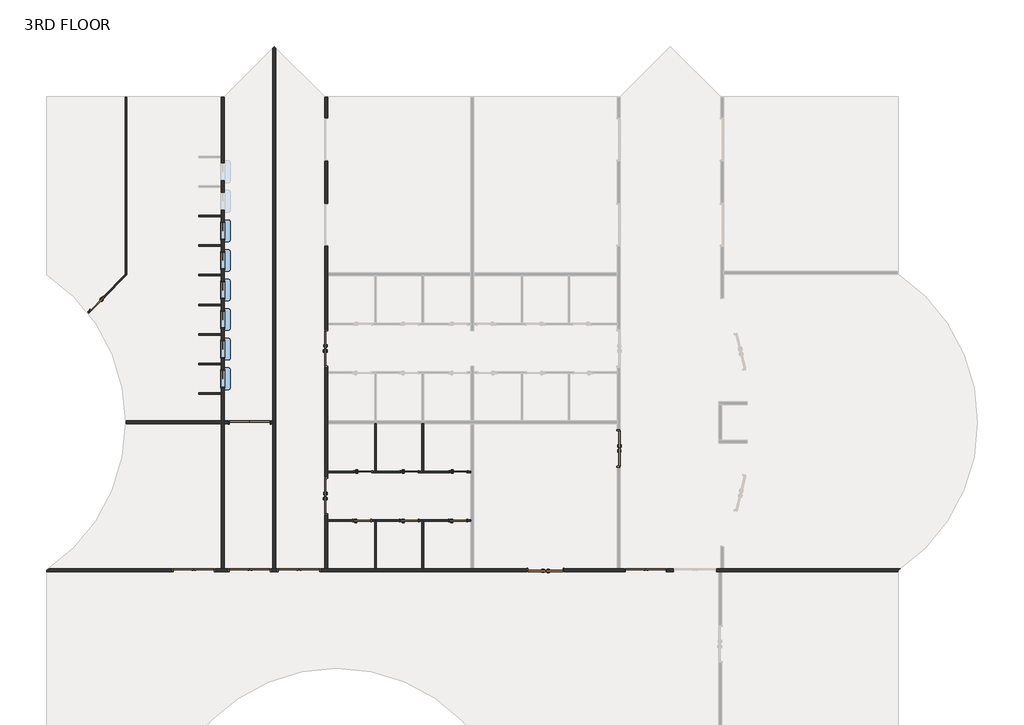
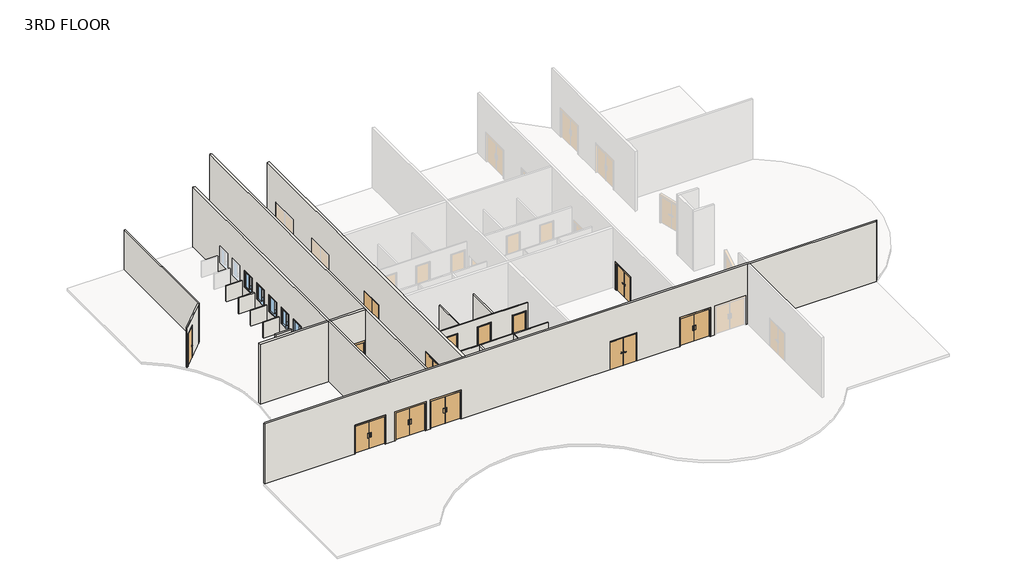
# One storey, part 1 of 2: 20 walls, 16 doors, 6 windows.
"""IFC4 building model written with IfcOpenShell, lengths in millimetres."""

from ifc_helpers import new_model, si_unit, point, frame, frame_2d, origin, place, context, project, spatial, polyline, circle_curve, trimmed, segment, composite_curve, outline, extrude, faceted_brep, transform, mapped, element, save
from ifc_brep_helpers import plane_surface, cylinder_surface, revolved_surface, advanced_brep
from components import door_2f250f70, door_0b13e4d9, door_b3a27a16, door_979b1b8c, door_f8b587be, pass_thru_4x3_19d81059

model = new_model("IFC4")

# Units and contexts
model_context = context("Model", 3, world=origin())
ifc_project = project(units=[si_unit("LENGTHUNIT", "METRE", prefix="MILLI")], contexts=[model_context])

# Site, building, storey
site = spatial("IfcSite", under=ifc_project)
building = spatial("IfcBuilding", under=site)
storey = spatial("IfcBuildingStorey", under=building, Name="3RD FLOOR", Elevation=13716.0)

# Doors
placement = place(None, origin())
door_shape = door_2f250f70(model_context)
element("IfcDoor", 1, ObjectType="Door-Passage-Double-Flush : 72\" x 82\"", at=placement, inside=storey, context=model_context, shape_type="MappedRepresentation", body=[
    mapped(door_shape, transform((14556.3400257, 13109.575, 13716.0), x_axis=(0.0, 1.0, 0.0), y_axis=(-1.0, 0.0, 0.0), z_axis=(0.0, 0.0, 1.0))),
])
element("IfcDoor", 2, ObjectType="Door-Passage-Double-Flush : 72\" x 82\"", at=placement, inside=storey, context=model_context, shape_type="MappedRepresentation", body=[
    mapped(door_shape, transform((14556.3400257, 20729.575, 13716.0), x_axis=(0.0, 1.0, 0.0), y_axis=(-1.0, 0.0, 0.0), z_axis=(0.0, 0.0, 1.0))),
])
element("IfcDoor", 3, ObjectType="Door-Passage-Double-Flush : 72\" x 82\"", at=placement, inside=storey, context=model_context, shape_type="MappedRepresentation", body=[
    mapped(door_shape, transform((25872.8337757, 9305.925, 13716.0), x_axis=(-1.0, 0.0, 0.0), y_axis=(0.0, -1.0, 0.0), z_axis=(0.0, 0.0, 1.0))),
])
element("IfcDoor", 4, ObjectType="Door-Passage-Double-Flush : 72\" x 82\"", at=placement, inside=storey, context=model_context, shape_type="MappedRepresentation", body=[
    mapped(door_shape, transform((29628.0650257, 15571.7875, 13716.0), x_axis=(0.0, -1.0, 0.0), y_axis=(1.0, 0.0, 0.0), z_axis=(0.0, 0.0, 1.0))),
])
door_2_shape = door_0b13e4d9(model_context)
element("IfcDoor", 5, ObjectType="Door-Passage-Double-Flush-Dbl_Acting : 84\" x 84\"", at=placement, inside=storey, context=model_context, shape_type="MappedRepresentation", body=[
    mapped(door_2_shape, transform((13151.4025257, 9293.225, 13716.0), x_axis=(-1.0, 0.0, 0.0), y_axis=(0.0, -1.0, 0.0), z_axis=(0.0, 0.0, 1.0))),
])
door_3_shape = door_b3a27a16(model_context)
element("IfcDoor", 6, ObjectType="Door-Passage-Double-Flush-Dbl_Acting : 84\" x 84\"", at=placement, inside=storey, context=model_context, shape_type="MappedRepresentation", body=[
    mapped(door_3_shape, transform((31033.0025257, 9293.225, 13716.0), x_axis=(1.0, 0.0, 0.0), y_axis=(0.0, 1.0, 0.0), z_axis=(0.0, 0.0, 1.0))),
])
element("IfcDoor", 7, ObjectType="Door-Passage-Double-Flush-Dbl_Acting : 84\" x 84\"", at=placement, inside=storey, context=model_context, shape_type="MappedRepresentation", body=[
    mapped(door_3_shape, transform((10620.375, 9293.225, 13716.0), x_axis=(1.0, 0.0, 0.0), y_axis=(0.0, 1.0, 0.0), z_axis=(0.0, 0.0, 1.0))),
])
element("IfcDoor", 8, ObjectType="Door-Passage-Double-Flush-Dbl_Acting : 84\" x 84\"", at=placement, inside=storey, context=model_context, shape_type="MappedRepresentation", body=[
    mapped(door_3_shape, transform((7730.5724743, 9293.225, 13716.0), x_axis=(1.0, 0.0, 0.0), y_axis=(0.0, 1.0, 0.0), z_axis=(0.0, 0.0, 1.0))),
])
element("IfcDoor", 9, ObjectType="Door-Passage-Double-Flush-Dbl_Acting : 84\" x 84\"", at=placement, inside=storey, context=model_context, shape_type="MappedRepresentation", body=[
    mapped(door_3_shape, transform((10620.375, 16913.225, 13716.0), x_axis=(1.0, 0.0, 0.0), y_axis=(0.0, 1.0, 0.0), z_axis=(0.0, 0.0, 1.0))),
])
door_4_shape = door_979b1b8c(model_context)
element("IfcDoor", 10, ObjectType="Door-Passage-Single-Flush : 36\" x 96\"", at=placement, inside=storey, context=model_context, shape_type="MappedRepresentation", body=[
    mapped(door_4_shape, transform((16456.5775257, 14357.35, 13716.0), x_axis=(1.0, 0.0, 0.0), y_axis=(0.0, 1.0, 0.0), z_axis=(0.0, 0.0, 1.0))),
])
element("IfcDoor", 11, ObjectType="Door-Passage-Single-Flush : 36\" x 96\"", at=placement, inside=storey, context=model_context, shape_type="MappedRepresentation", body=[
    mapped(door_4_shape, transform((18855.2900257, 14357.35, 13716.0), x_axis=(1.0, 0.0, 0.0), y_axis=(0.0, 1.0, 0.0), z_axis=(0.0, 0.0, 1.0))),
])
element("IfcDoor", 12, ObjectType="Door-Passage-Single-Flush : 36\" x 96\"", at=placement, inside=storey, context=model_context, shape_type="MappedRepresentation", body=[
    mapped(door_4_shape, transform((21373.0650257, 14357.35, 13716.0), x_axis=(1.0, 0.0, 0.0), y_axis=(0.0, 1.0, 0.0), z_axis=(0.0, 0.0, 1.0))),
])
element("IfcDoor", 13, ObjectType="Door-Passage-Single-Flush : 36\" x 96\"", at=placement, inside=storey, context=model_context, shape_type="MappedRepresentation", body=[
    mapped(door_4_shape, transform((2731.3607977, 23031.2061406, 13716.0), x_axis=(-0.7071067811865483, -0.7071067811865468, 0.0), y_axis=(0.7071067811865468, -0.7071067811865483, 0.0), z_axis=(0.0, 0.0, 1.0))),
])
door_5_shape = door_f8b587be(model_context)
element("IfcDoor", 14, ObjectType="Door-Passage-Single-Flush : 36\" x 96\"", at=placement, inside=storey, context=model_context, shape_type="MappedRepresentation", body=[
    mapped(door_5_shape, transform((16405.7775257, 11861.8, 13716.0), x_axis=(1.0, 0.0, 0.0), y_axis=(0.0, 1.0, 0.0), z_axis=(0.0, 0.0, 1.0))),
])
element("IfcDoor", 15, ObjectType="Door-Passage-Single-Flush : 36\" x 96\"", at=placement, inside=storey, context=model_context, shape_type="MappedRepresentation", body=[
    mapped(door_5_shape, transform((18836.2400257, 11861.8, 13716.0), x_axis=(1.0, 0.0, 0.0), y_axis=(0.0, 1.0, 0.0), z_axis=(0.0, 0.0, 1.0))),
])
element("IfcDoor", 16, ObjectType="Door-Passage-Single-Flush : 36\" x 96\"", at=placement, inside=storey, context=model_context, shape_type="MappedRepresentation", body=[
    mapped(door_5_shape, transform((21354.0150257, 11861.8, 13716.0), x_axis=(1.0, 0.0, 0.0), y_axis=(0.0, 1.0, 0.0), z_axis=(0.0, 0.0, 1.0))),
])

# Walls
element("IfcWall", 17, ObjectType="SYR_INT_ONE_HOUR", at=placement, inside=storey, context=model_context, shape_type="SweptSolid", body=[
    extrude(outline(polyline([(17066.1775257, 14403.3875), (17066.1775257, 16841.7875), (17145.5525257, 16841.7875), (17145.5525257, 14403.3875), (17066.1775257, 14403.3875)])), frame((0.0, 0.0, 13716.0), z_axis=(0.0, 0.0, 1.0), x_axis=(1.0, 0.0, 0.0)), (0.0, 0.0, 1.0), 3048.0),
])
element("IfcWall", 18, ObjectType="SYR_INT_ONE_HOUR", at=placement, inside=storey, context=model_context, shape_type="SweptSolid", body=[
    extrude(outline(polyline([(19576.0150257, 11815.7625), (19576.0150257, 9377.3625), (19496.6400257, 9377.3625), (19496.6400257, 11815.7625), (19576.0150257, 11815.7625)])), frame((0.0, 0.0, 13716.0), z_axis=(0.0, 0.0, 1.0), x_axis=(1.0, 0.0, 0.0)), (0.0, 0.0, 1.0), 3048.0),
])
element("IfcWall", 19, ObjectType="SYR_INT_ONE_HOUR", at=placement, inside=storey, context=model_context, shape_type="Brep", body=[
    faceted_brep([(14627.7775257, 14403.3875, 16764.0), (17066.1775257, 14403.3875, 16764.0), (17145.5525257, 14403.3875, 16764.0), (19496.6400257, 14403.3875, 16764.0), (19576.0150257, 14403.3875, 16764.0), (22014.4150257, 14403.3875, 16764.0), (22014.4150257, 14403.3875, 13716.0), (21862.0150257, 14403.3875, 13716.0), (21862.0150257, 14403.3875, 16186.15), (20884.1150257, 14403.3875, 16186.15), (20884.1150257, 14403.3875, 13716.0), (19576.0150257, 14403.3875, 13716.0), (19496.6400257, 14403.3875, 13716.0), (19344.2400257, 14403.3875, 13716.0), (19344.2400257, 14403.3875, 16186.15), (18366.3400257, 14403.3875, 16186.15), (18366.3400257, 14403.3875, 13716.0), (17145.5525257, 14403.3875, 13716.0), (17066.1775257, 14403.3875, 13716.0), (16945.5275257, 14403.3875, 13716.0), (16945.5275257, 14403.3875, 16186.15), (15967.6275257, 14403.3875, 16186.15), (15967.6275257, 14403.3875, 13716.0), (14627.7775257, 14403.3875, 13716.0), (22014.4150257, 14324.0125, 16764.0), (14627.7775257, 14324.0125, 16764.0), (14627.7775257, 14324.0125, 13716.0), (15967.6275257, 14324.0125, 13716.0), (15967.6275257, 14324.0125, 16186.15), (16945.5275257, 14324.0125, 16186.15), (16945.5275257, 14324.0125, 13716.0), (18366.3400257, 14324.0125, 13716.0), (18366.3400257, 14324.0125, 16186.15), (19344.2400257, 14324.0125, 16186.15), (19344.2400257, 14324.0125, 13716.0), (20884.1150257, 14324.0125, 13716.0), (20884.1150257, 14324.0125, 16186.15), (21862.0150257, 14324.0125, 16186.15), (21862.0150257, 14324.0125, 13716.0), (22014.4150257, 14324.0125, 13716.0)], [[[0, 1, 2, 3, 4, 5, 6, 7, 8, 9, 10, 11, 12, 13, 14, 15, 16, 17, 18, 19, 20, 21, 22, 23]], [[24, 25, 26, 27, 28, 29, 30, 31, 32, 33, 34, 35, 36, 37, 38, 39]], [[6, 39, 38, 7]], [[26, 23, 22, 27]], [[30, 19, 18, 17, 16, 31]], [[34, 13, 12, 11, 10, 35]], [[5, 4, 3, 2, 1, 0, 25, 24]], [[0, 23, 26, 25]], [[6, 5, 24, 39]], [[29, 20, 19, 30]], [[20, 29, 28, 21]], [[21, 28, 27, 22]], [[14, 13, 34, 33]], [[15, 14, 33, 32]], [[16, 15, 32, 31]], [[37, 8, 7, 38]], [[8, 37, 36, 9]], [[9, 36, 35, 10]]]),
])
element("IfcWall", 20, ObjectType="SYR_INT_ONE_HOUR", at=placement, inside=storey, context=model_context, shape_type="Brep", body=[
    faceted_brep([(14627.7775257, 11895.1375, 16764.0), (22014.4150257, 11895.1375, 16764.0), (22014.4150257, 11895.1375, 13716.0), (21842.9650257, 11895.1375, 13716.0), (21842.9650257, 11895.1375, 16186.15), (20865.0650257, 11895.1375, 16186.15), (20865.0650257, 11895.1375, 13716.0), (19325.1900257, 11895.1375, 13716.0), (19325.1900257, 11895.1375, 16186.15), (18347.2900257, 11895.1375, 16186.15), (18347.2900257, 11895.1375, 13716.0), (16894.7275257, 11895.1375, 13716.0), (16894.7275257, 11895.1375, 16186.15), (15916.8275257, 11895.1375, 16186.15), (15916.8275257, 11895.1375, 13716.0), (14627.7775257, 11895.1375, 13716.0), (22014.4150257, 11815.7625, 16764.0), (19576.0150257, 11815.7625, 16764.0), (19496.6400257, 11815.7625, 16764.0), (17145.5525257, 11815.7625, 16764.0), (17066.1775257, 11815.7625, 16764.0), (14627.7775257, 11815.7625, 16764.0), (14627.7775257, 11815.7625, 13716.0), (15916.8275257, 11815.7625, 13716.0), (15916.8275257, 11815.7625, 16186.15), (16894.7275257, 11815.7625, 16186.15), (16894.7275257, 11815.7625, 13716.0), (17066.1775257, 11815.7625, 13716.0), (17145.5525257, 11815.7625, 13716.0), (18347.2900257, 11815.7625, 13716.0), (18347.2900257, 11815.7625, 16186.15), (19325.1900257, 11815.7625, 16186.15), (19325.1900257, 11815.7625, 13716.0), (19496.6400257, 11815.7625, 13716.0), (19576.0150257, 11815.7625, 13716.0), (20865.0650257, 11815.7625, 13716.0), (20865.0650257, 11815.7625, 16186.15), (21842.9650257, 11815.7625, 16186.15), (21842.9650257, 11815.7625, 13716.0), (22014.4150257, 11815.7625, 13716.0)], [[[0, 1, 2, 3, 4, 5, 6, 7, 8, 9, 10, 11, 12, 13, 14, 15]], [[16, 17, 18, 19, 20, 21, 22, 23, 24, 25, 26, 27, 28, 29, 30, 31, 32, 33, 34, 35, 36, 37, 38, 39]], [[2, 39, 38, 3]], [[22, 15, 14, 23]], [[26, 11, 10, 29, 28, 27]], [[32, 7, 6, 35, 34, 33]], [[1, 0, 21, 20, 19, 18, 17, 16]], [[0, 15, 22, 21]], [[2, 1, 16, 39]], [[25, 12, 11, 26]], [[12, 25, 24, 13]], [[13, 24, 23, 14]], [[31, 8, 7, 32]], [[8, 31, 30, 9]], [[9, 30, 29, 10]], [[37, 4, 3, 38]], [[4, 37, 36, 5]], [[5, 36, 35, 6]]]),
])
element("IfcWall", 21, ObjectType="SYR_INT_ONE_HOUR", at=placement, inside=storey, context=model_context, shape_type="SweptSolid", body=[
    extrude(outline(polyline([(17066.1775257, 9377.3625), (17066.1775257, 11815.7625), (17145.5525257, 11815.7625), (17145.5525257, 9377.3625), (17066.1775257, 9377.3625)])), frame((0.0, 0.0, 13716.0), z_axis=(0.0, 0.0, 1.0), x_axis=(1.0, 0.0, 0.0)), (0.0, 0.0, 1.0), 3048.0),
])
element("IfcWall", 22, ObjectType="SYR_INT_ONE_HOUR", at=placement, inside=storey, context=model_context, shape_type="SweptSolid", body=[
    extrude(outline(polyline([(19576.0150257, 16841.7875), (19576.0150257, 14403.3875), (19496.6400257, 14403.3875), (19496.6400257, 16841.7875), (19576.0150257, 16841.7875)])), frame((0.0, 0.0, 13716.0), z_axis=(0.0, 0.0, 1.0), x_axis=(1.0, 0.0, 0.0)), (0.0, 0.0, 1.0), 3048.0),
])
element("IfcWall", 23, ObjectType="SYR_INT_ONE_HOUR", at=placement, inside=storey, context=model_context, shape_type="SweptSolid", body=[
    extrude(outline(polyline([(7979.2710938, 18443.575), (9144.0, 18443.575), (9144.0, 18364.2), (7979.2710938, 18364.2), (7979.2710938, 18443.575)])), frame((0.0, 0.0, 13716.0), z_axis=(0.0, 0.0, 1.0), x_axis=(1.0, 0.0, 0.0)), (0.0, 0.0, 1.0), 1219.2),
])
element("IfcWall", 24, ObjectType="SYR_INT_ONE_HOUR", at=placement, inside=storey, context=model_context, shape_type="SweptSolid", body=[
    extrude(outline(polyline([(7979.2710938, 19967.575), (9144.0, 19967.575), (9144.0, 19888.2), (7979.2710938, 19888.2), (7979.2710938, 19967.575)])), frame((0.0, 0.0, 13716.0), z_axis=(0.0, 0.0, 1.0), x_axis=(1.0, 0.0, 0.0)), (0.0, 0.0, 1.0), 1219.2),
])
element("IfcWall", 25, ObjectType="SYR_INT_ONE_HOUR", at=placement, inside=storey, context=model_context, shape_type="SweptSolid", body=[
    extrude(outline(polyline([(7979.2710938, 21491.575), (9144.0, 21491.575), (9144.0, 21412.2), (7979.2710938, 21412.2), (7979.2710938, 21491.575)])), frame((0.0, 0.0, 13716.0), z_axis=(0.0, 0.0, 1.0), x_axis=(1.0, 0.0, 0.0)), (0.0, 0.0, 1.0), 1219.2),
])
element("IfcWall", 26, ObjectType="SYR_INT_ONE_HOUR", at=placement, inside=storey, context=model_context, shape_type="SweptSolid", body=[
    extrude(outline(polyline([(7979.2710938, 23015.575), (9144.0, 23015.575), (9144.0, 22936.2), (7979.2710938, 22936.2), (7979.2710938, 23015.575)])), frame((0.0, 0.0, 13716.0), z_axis=(0.0, 0.0, 1.0), x_axis=(1.0, 0.0, 0.0)), (0.0, 0.0, 1.0), 1219.2),
])
element("IfcWall", 27, ObjectType="SYR_INT_ONE_HOUR", at=placement, inside=storey, context=model_context, shape_type="SweptSolid", body=[
    extrude(outline(polyline([(7979.2710938, 24539.575), (9144.0, 24539.575), (9144.0, 24460.2), (7979.2710938, 24460.2), (7979.2710938, 24539.575)])), frame((0.0, 0.0, 13716.0), z_axis=(0.0, 0.0, 1.0), x_axis=(1.0, 0.0, 0.0)), (0.0, 0.0, 1.0), 1219.2),
])
element("IfcWall", 28, ObjectType="SYR_INT_ONE_HOUR", at=placement, inside=storey, context=model_context, shape_type="SweptSolid", body=[
    extrude(outline(polyline([(7979.2710938, 26063.575), (9144.0, 26063.575), (9144.0, 25984.2), (7979.2710938, 25984.2), (7979.2710938, 26063.575)])), frame((0.0, 0.0, 13716.0), z_axis=(0.0, 0.0, 1.0), x_axis=(1.0, 0.0, 0.0)), (0.0, 0.0, 1.0), 1219.2),
])
element("IfcWall", 29, ObjectType="SYR_INT_ONE_HOUR", at=placement, inside=storey, context=model_context, shape_type="SweptSolid", body=[
    extrude(outline(polyline([(7979.2710938, 27587.575), (9144.0, 27587.575), (9144.0, 27508.2), (7979.2710938, 27508.2), (7979.2710938, 27587.575)])), frame((0.0, 0.0, 13716.0), z_axis=(0.0, 0.0, 1.0), x_axis=(1.0, 0.0, 0.0)), (0.0, 0.0, 1.0), 1219.2),
])
element("IfcWall", 30, ObjectType="SYR_INT_ONE_HOUR", at=placement, inside=storey, context=model_context, shape_type="Brep", body=[
    faceted_brep([(4209.0224132, 33683.575, 13716.0), (4209.0224132, 24556.0141008, 13716.0), (4209.0224132, 24443.7608992, 13716.0), (4209.0224132, 24443.7608992, 16764.0), (4209.0224132, 24556.0141008, 16764.0), (4209.0224132, 33683.575, 16764.0), (4288.3974132, 33683.575, 13716.0), (4288.3974132, 33683.575, 16764.0), (4288.3974132, 24523.1358992, 16764.0), (4288.3974132, 24523.1358992, 13716.0)], [[[0, 1, 2, 3, 4, 5]], [[6, 7, 8, 9]], [[2, 1, 0, 6, 9]], [[5, 4, 3, 8, 7]], [[3, 2, 9, 8]], [[0, 5, 7, 6]]]),
])
element("IfcWall", 31, ObjectType="SYR_INT_ONE_HOUR", at=placement, inside=storey, context=model_context, shape_type="AdvancedBrep", body=[
    advanced_brep(
    [(2260.5955581, 22607.5872456, 16764.0), (4209.0224132, 24556.0141008, 16764.0), (4209.0224132, 24556.0141008, 13716.0), (3053.527486, 23400.5191735, 13716.0), (3053.527486, 23400.5191735, 16186.15), (2362.0477647, 22709.0394522, 16186.15), (2362.0477647, 22709.0394522, 13716.0), (2260.5955581, 22607.5872456, 13716.0), (4209.0224132, 24443.7608992, 16764.0), (2310.04482, 22544.783306, 16764.0), (2310.04482, 22544.783306, 13716.0), (2418.1743655, 22652.9128515, 13716.0), (2418.1743655, 22652.9128515, 16186.15), (3109.6540868, 23344.3925728, 16186.15), (3109.6540868, 23344.3925728, 13716.0), (4209.0224132, 24443.7608992, 13716.0)],
    [
        (0, 1),
        (1, 2),
        (2, 3),
        (3, 4),
        (4, 5),
        (5, 6),
        (6, 7),
        (7, 0),
        (8, 9),
        (9, 10),
        (10, 11),
        (11, 12),
        (12, 13),
        (13, 14),
        (14, 15),
        (15, 8),
        (2, 15),
        (14, 3),
        (10, 7, circle_curve(frame((-4898.9611805, 16919.575, 13716.0), z_axis=(0.0, 0.0, 1.0), x_axis=(1.0, 0.0, 0.0)), 9144.0)),
        (6, 11),
        (0, 9, circle_curve(frame((-4898.9611805, 16919.575, 16764.0), z_axis=(0.0, 0.0, -1.0), x_axis=(1.0, 0.0, 0.0)), 9144.0)),
        (8, 1),
        (5, 12),
        (4, 13),
    ],
    [
        plane_surface(frame((4220.6466129, 24567.6383004, 13716.0), z_axis=(-0.7071067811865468, 0.7071067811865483, 0.0), x_axis=(-0.7071067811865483, -0.7071067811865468, 0.0))),
        plane_surface(frame((4276.7732136, 24511.5116996, 13716.0), z_axis=(0.7071067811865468, -0.7071067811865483, 0.0), x_axis=(0.7071067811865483, 0.7071067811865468, 0.0))),
        plane_surface(frame((4220.6466129, 24567.6383004, 13716.0), z_axis=(0.0, 0.0, -1.0), x_axis=(0.7071067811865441, -0.7071067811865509, 0.0))),
        plane_surface(frame((2146.5216178, 22493.5133053, 16764.0), z_axis=(0.0, 0.0, 1.0000000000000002), x_axis=(0.7071067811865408, -0.7071067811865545, 0.0))),
        plane_surface(frame((4209.0224132, 33778.5769531, 13716.0), z_axis=(1.0, 0.0, 0.0), x_axis=(0.0, -1.0, 0.0))),
        plane_surface(frame((1284.4170302, 23786.6701867, 13716.0), z_axis=(0.7071067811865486, 0.7071067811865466, 0.0), x_axis=(0.7071067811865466, -0.7071067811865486, 0.0))),
        plane_surface(frame((1284.4170302, 23786.6701867, 16186.15), z_axis=(0.0, 0.0, -1.0), x_axis=(0.7071067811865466, -0.7071067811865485, 0.0))),
        plane_surface(frame((1975.8967515, 24478.1499081, 16186.15), z_axis=(-0.7071067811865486, -0.7071067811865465, 0.0), x_axis=(0.7071067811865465, -0.7071067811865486, 0.0))),
        revolved_surface(polyline([(4245.0388195, 16919.575, 16764.0), (4245.0388195, 16919.575, 13716.0)]), (-4898.9611805, 16919.575, 0.0), (0.0, 0.0, 1.0)),
    ],
    [
        (0, [[1, 2, 3, 4, 5, 6, 7, 8]]),
        (1, [[9, 10, 11, 12, 13, 14, 15, 16]]),
        (2, [[17, -15, 18, -3]]),
        (2, [[19, -7, 20, -11]]),
        (3, [[-1, 21, -9, 22]]),
        (4, [[-2, -22, -16, -17]]),
        (5, [[23, -12, -20, -6]]),
        (6, [[-23, -5, 24, -13]]),
        (7, [[-24, -4, -18, -14]]),
        (8, [[-8, -19, -10, -21]]),
    ],
),
])
element("IfcWall", 32, ObjectType="SYR_INT_TWO_HOUR", at=placement, inside=storey, context=model_context, shape_type="AdvancedBrep", body=[
    advanced_brep(
    [(270.9292057, 9377.3625, 18288.0), (9144.0, 9377.3625, 18288.0), (9299.575, 9377.3625, 18288.0), (11808.1012629, 9377.3625, 18288.0), (11963.6762629, 9377.3625, 18288.0), (14472.2025257, 9377.3625, 18288.0), (14627.7775257, 9377.3625, 18288.0), (22014.4150257, 9377.3625, 18288.0), (22169.9900257, 9377.3625, 18288.0), (29556.6275257, 9377.3625, 18288.0), (29712.2025257, 9377.3625, 18288.0), (34884.8300515, 9377.3625, 18288.0), (35040.4050515, 9377.3625, 18288.0), (44144.1842571, 9377.3625, 18288.0), (44144.1842571, 9377.3625, 13716.0), (35040.4050515, 9377.3625, 13716.0), (34884.8300515, 9377.3625, 13716.0), (34681.6300515, 9377.3625, 13716.0), (34681.6300515, 9377.3625, 15951.2), (32446.4300515, 9377.3625, 15951.2), (32446.4300515, 9377.3625, 13716.0), (32150.6025257, 9377.3625, 13716.0), (32150.6025257, 9377.3625, 15951.2), (29915.4025257, 9377.3625, 15951.2), (29915.4025257, 9377.3625, 13716.0), (29712.2025257, 9377.3625, 13716.0), (29556.6275257, 9377.3625, 13716.0), (26838.0337757, 9377.3625, 13716.0), (26838.0337757, 9377.3625, 15900.4), (24907.6337757, 9377.3625, 15900.4), (24907.6337757, 9377.3625, 13716.0), (22169.9900257, 9377.3625, 13716.0), (22014.4150257, 9377.3625, 13716.0), (19576.0150257, 9377.3625, 13716.0), (19496.6400257, 9377.3625, 13716.0), (17145.5525257, 9377.3625, 13716.0), (17066.1775257, 9377.3625, 13716.0), (14627.7775257, 9377.3625, 13716.0), (14472.2025257, 9377.3625, 13716.0), (14269.0025257, 9377.3625, 13716.0), (14269.0025257, 9377.3625, 15951.2), (12033.8025257, 9377.3625, 15951.2), (12033.8025257, 9377.3625, 13716.0), (11963.6762629, 9377.3625, 13716.0), (11808.1012629, 9377.3625, 13716.0), (11737.975, 9377.3625, 13716.0), (11737.975, 9377.3625, 15951.2), (9502.775, 9377.3625, 15951.2), (9502.775, 9377.3625, 13716.0), (9299.575, 9377.3625, 13716.0), (9144.0, 9377.3625, 13716.0), (8848.1724743, 9377.3625, 13716.0), (8848.1724743, 9377.3625, 15951.2), (6612.9724743, 9377.3625, 15951.2), (6612.9724743, 9377.3625, 13716.0), (270.9292057, 9377.3625, 13716.0), (155.575, 9221.7875, 18288.0), (155.575, 9221.7875, 13716.0), (6612.9724743, 9221.7875, 13716.0), (6612.9724743, 9221.7875, 15951.2), (8848.1724743, 9221.7875, 15951.2), (8848.1724743, 9221.7875, 13716.0), (9502.775, 9221.7875, 13716.0), (9502.775, 9221.7875, 15951.2), (11737.975, 9221.7875, 15951.2), (11737.975, 9221.7875, 13716.0), (12033.8025257, 9221.7875, 13716.0), (12033.8025257, 9221.7875, 15951.2), (14269.0025257, 9221.7875, 15951.2), (14269.0025257, 9221.7875, 13716.0), (24907.6337757, 9221.7875, 13716.0), (24907.6337757, 9221.7875, 15900.4), (26838.0337757, 9221.7875, 15900.4), (26838.0337757, 9221.7875, 13716.0), (29915.4025257, 9221.7875, 13716.0), (29915.4025257, 9221.7875, 15951.2), (32150.6025257, 9221.7875, 15951.2), (32150.6025257, 9221.7875, 13716.0), (32446.4300515, 9221.7875, 13716.0), (32446.4300515, 9221.7875, 15951.2), (34681.6300515, 9221.7875, 15951.2), (34681.6300515, 9221.7875, 13716.0), (34803.3714577, 9221.7875, 13716.0), (34958.9464577, 9221.7875, 13716.0), (44028.8300515, 9221.7875, 13716.0), (44028.8300515, 9221.7875, 18288.0), (34958.9464577, 9221.7875, 18288.0), (34803.3714577, 9221.7875, 18288.0), (44028.8300515, 9299.575, 13716.0), (155.575, 9299.575, 13716.0), (155.575, 9299.575, 18288.0), (44028.8300515, 9299.575, 18288.0)],
    [
        (0, 1),
        (1, 2),
        (2, 3),
        (3, 4),
        (4, 5),
        (5, 6),
        (6, 7),
        (7, 8),
        (8, 9),
        (9, 10),
        (10, 11),
        (11, 12),
        (12, 13),
        (13, 14),
        (14, 15),
        (15, 16),
        (16, 17),
        (17, 18),
        (18, 19),
        (19, 20),
        (20, 21),
        (21, 22),
        (22, 23),
        (23, 24),
        (24, 25),
        (25, 26),
        (26, 27),
        (27, 28),
        (28, 29),
        (29, 30),
        (30, 31),
        (31, 32),
        (32, 33),
        (33, 34),
        (34, 35),
        (35, 36),
        (36, 37),
        (37, 38),
        (38, 39),
        (39, 40),
        (40, 41),
        (41, 42),
        (42, 43),
        (43, 44),
        (44, 45),
        (45, 46),
        (46, 47),
        (47, 48),
        (48, 49),
        (49, 50),
        (50, 51),
        (51, 52),
        (52, 53),
        (53, 54),
        (54, 55),
        (55, 0),
        (56, 57),
        (57, 58),
        (58, 59),
        (59, 60),
        (60, 61),
        (61, 62),
        (62, 63),
        (63, 64),
        (64, 65),
        (65, 66),
        (66, 67),
        (67, 68),
        (68, 69),
        (69, 70),
        (70, 71),
        (71, 72),
        (72, 73),
        (73, 74),
        (74, 75),
        (75, 76),
        (76, 77),
        (77, 78),
        (78, 79),
        (79, 80),
        (80, 81),
        (81, 82),
        (82, 83),
        (83, 84),
        (84, 85),
        (85, 86),
        (86, 87),
        (87, 56),
        (20, 78),
        (77, 21),
        (81, 17),
        (14, 88, circle_curve(frame((38974.293871, 16919.575, 13716.0), z_axis=(0.0, 0.0, -1.0), x_axis=(0.8333333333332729, 0.5527707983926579, 0.0)), 9144.0)),
        (88, 84),
        (24, 74),
        (73, 27),
        (42, 66),
        (65, 45),
        (69, 39),
        (30, 70),
        (48, 62),
        (61, 51),
        (54, 58),
        (57, 89),
        (89, 55, circle_curve(frame((-4898.9611805, 16919.575, 13716.0), z_axis=(0.0, 0.0, 1.0), x_axis=(0.8333333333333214, 0.5527707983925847, 0.0)), 9144.0)),
        (0, 90, circle_curve(frame((-4898.9611805, 16919.575, 18288.0), z_axis=(0.0, 0.0, -1.0), x_axis=(0.8333333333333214, 0.5527707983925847, 0.0)), 9144.0)),
        (90, 56),
        (85, 91),
        (91, 13, circle_curve(frame((38974.293871, 16919.575, 18288.0), z_axis=(0.0, 0.0, 1.0), x_axis=(0.8333333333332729, 0.5527707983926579, 0.0)), 9144.0)),
        (19, 79),
        (18, 80),
        (76, 22),
        (75, 23),
        (41, 67),
        (40, 68),
        (64, 46),
        (63, 47),
        (60, 52),
        (59, 53),
        (29, 71),
        (28, 72),
        (89, 90),
        (91, 88),
    ],
    [
        plane_surface(frame((44028.8300515, 9377.3625, 13716.0), z_axis=(0.0, 1.0, 0.0), x_axis=(-1.0, 0.0, 0.0))),
        plane_surface(frame((44028.8300515, 9221.7875, 13716.0), z_axis=(0.0, -1.0, 0.0), x_axis=(1.0, 0.0, 0.0))),
        plane_surface(frame((44305.118871, 9377.3625, 13716.0), z_axis=(0.0, 0.0, -1.0), x_axis=(0.0, -1.0, 0.0))),
        plane_surface(frame((0.0, 9377.3625, 18288.0), z_axis=(0.0, 0.0, 1.0), x_axis=(0.0, -1.0, 0.0))),
        plane_surface(frame((32446.4300515, 10745.7875, 13716.0), z_axis=(1.0, 0.0, 0.0), x_axis=(0.0, -1.0, 0.0))),
        plane_surface(frame((32446.4300515, 10745.7875, 15951.2), z_axis=(0.0, 0.0, -1.0), x_axis=(0.0, -1.0, 0.0))),
        plane_surface(frame((34681.6300515, 10745.7875, 15951.2), z_axis=(-1.0, 0.0, 0.0), x_axis=(0.0, -1.0, 0.0))),
        plane_surface(frame((32150.6025257, 7697.7875, 13716.0), z_axis=(-1.0, 0.0, 0.0), x_axis=(0.0, 1.0, 0.0))),
        plane_surface(frame((32150.6025257, 7697.7875, 15951.2), z_axis=(0.0, 0.0, -1.0), x_axis=(0.0, 1.0, 0.0))),
        plane_surface(frame((29915.4025257, 7697.7875, 15951.2), z_axis=(1.0, 0.0, 0.0), x_axis=(0.0, 1.0, 0.0))),
        plane_surface(frame((12033.8025257, 10745.7875, 13716.0), z_axis=(1.0, 0.0, 0.0), x_axis=(0.0, -1.0, 0.0))),
        plane_surface(frame((12033.8025257, 10745.7875, 15951.2), z_axis=(0.0, 0.0, -1.0), x_axis=(0.0, -1.0, 0.0))),
        plane_surface(frame((14269.0025257, 10745.7875, 15951.2), z_axis=(-1.0, 0.0, 0.0), x_axis=(0.0, -1.0, 0.0))),
        plane_surface(frame((11737.975, 7697.7875, 13716.0), z_axis=(-1.0, 0.0, 0.0), x_axis=(0.0, 1.0, 0.0))),
        plane_surface(frame((11737.975, 7697.7875, 15951.2), z_axis=(0.0, 0.0, -1.0), x_axis=(0.0, 1.0, 0.0))),
        plane_surface(frame((9502.775, 7697.7875, 15951.2), z_axis=(1.0, 0.0, 0.0), x_axis=(0.0, 1.0, 0.0))),
        plane_surface(frame((8848.1724743, 7697.7875, 13716.0), z_axis=(-1.0, 0.0, 0.0), x_axis=(0.0, 1.0, 0.0))),
        plane_surface(frame((8848.1724743, 7697.7875, 15951.2), z_axis=(0.0, 0.0, -1.0), x_axis=(0.0, 1.0, 0.0))),
        plane_surface(frame((6612.9724743, 7697.7875, 15951.2), z_axis=(1.0, 0.0, 0.0), x_axis=(0.0, 1.0, 0.0))),
        plane_surface(frame((24907.6337757, 10901.3625, 13716.0), z_axis=(1.0, 0.0, 0.0), x_axis=(0.0, -1.0, 0.0))),
        plane_surface(frame((24907.6337757, 10901.3625, 15900.4), z_axis=(0.0, 0.0, -1.0), x_axis=(0.0, -1.0, 0.0))),
        plane_surface(frame((26838.0337757, 10901.3625, 15900.4), z_axis=(-1.0, 0.0, 0.0), x_axis=(0.0, -1.0, 0.0))),
        revolved_surface(polyline([(2721.0388194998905, 21974.111180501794, 18288.0), (2721.0388194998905, 21974.111180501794, 13716.0)]), (-4898.9611805, 16919.575, 13487.4), (0.0, 0.0, 1.0)),
        plane_surface(frame((155.575, -12852.9844355, 13487.4), z_axis=(-1.0, 0.0, 0.0), x_axis=(0.0, -1.0, 0.0))),
        cylinder_surface(frame((38974.293871, 16919.575, 13487.4), z_axis=(0.0, 0.0, 1.0), x_axis=(0.8333333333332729, 0.5527707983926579, 0.0)), 9144.0),
        plane_surface(frame((44028.8300515, -12852.9844355, 13487.4), z_axis=(1.0, 0.0, 0.0), x_axis=(0.0, 1.0, 0.0))),
    ],
    [
        (0, [[1, 2, 3, 4, 5, 6, 7, 8, 9, 10, 11, 12, 13, 14, 15, 16, 17, 18, 19, 20, 21, 22, 23, 24, 25, 26, 27, 28, 29, 30, 31, 32, 33, 34, 35, 36, 37, 38, 39, 40, 41, 42, 43, 44, 45, 46, 47, 48, 49, 50, 51, 52, 53, 54, 55, 56]]),
        (1, [[57, 58, 59, 60, 61, 62, 63, 64, 65, 66, 67, 68, 69, 70, 71, 72, 73, 74, 75, 76, 77, 78, 79, 80, 81, 82, 83, 84, 85, 86, 87, 88]]),
        (2, [[89, -78, 90, -21]]),
        (2, [[91, -17, -16, -15, 92, 93, -84, -83, -82]]),
        (2, [[94, -74, 95, -27, -26, -25]]),
        (2, [[96, -66, 97, -45, -44, -43]]),
        (2, [[98, -39, -38, -37, -36, -35, -34, -33, -32, -31, 99, -70]]),
        (2, [[100, -62, 101, -51, -50, -49]]),
        (2, [[-55, 102, -58, 103, 104]]),
        (3, [[-13, -12, -11, -10, -9, -8, -7, -6, -5, -4, -3, -2, -1, 105, 106, -88, -87, -86, 107, 108]]),
        (4, [[109, -79, -89, -20]]),
        (5, [[-109, -19, 110, -80]]),
        (6, [[-110, -18, -91, -81]]),
        (7, [[111, -22, -90, -77]]),
        (8, [[-111, -76, 112, -23]]),
        (9, [[-112, -75, -94, -24]]),
        (10, [[113, -67, -96, -42]]),
        (11, [[-113, -41, 114, -68]]),
        (12, [[-114, -40, -98, -69]]),
        (13, [[115, -46, -97, -65]]),
        (14, [[-115, -64, 116, -47]]),
        (15, [[-116, -63, -100, -48]]),
        (16, [[117, -52, -101, -61]]),
        (17, [[-117, -60, 118, -53]]),
        (18, [[-118, -59, -102, -54]]),
        (19, [[119, -71, -99, -30]]),
        (20, [[-119, -29, 120, -72]]),
        (21, [[-120, -28, -95, -73]]),
        (22, [[-56, -104, 121, -105]]),
        (23, [[-57, -106, -121, -103]]),
        (24, [[-14, -108, 122, -92]]),
        (25, [[-85, -93, -122, -107]]),
    ],
),
])
element("IfcWall", 33, ObjectType="SYR_INT_TWO_HOUR", at=placement, inside=storey, context=model_context, shape_type="Brep", body=[
    faceted_brep([(9144.0, 33683.575, 13716.0), (9144.0, 30635.575, 13716.0), (9144.0, 30556.2, 13716.0), (9144.0, 29111.575, 13716.0), (9144.0, 29032.2, 13716.0), (9144.0, 27587.575, 13716.0), (9144.0, 27508.2, 13716.0), (9144.0, 26063.575, 13716.0), (9144.0, 25984.2, 13716.0), (9144.0, 24539.575, 13716.0), (9144.0, 24460.2, 13716.0), (9144.0, 23015.575, 13716.0), (9144.0, 22936.2, 13716.0), (9144.0, 21491.575, 13716.0), (9144.0, 21412.2, 13716.0), (9144.0, 19967.575, 13716.0), (9144.0, 19888.2, 13716.0), (9144.0, 18443.575, 13716.0), (9144.0, 18364.2, 13716.0), (9144.0, 16997.3625, 13716.0), (9144.0, 16841.7875, 13716.0), (9144.0, 9377.3625, 13716.0), (9144.0, 9377.3625, 18288.0), (9144.0, 16841.7875, 18288.0), (9144.0, 16997.3625, 18288.0), (9144.0, 33683.575, 18288.0), (9144.0, 19623.0875, 15849.6), (9144.0, 18708.6875, 15849.6), (9144.0, 18708.6875, 14630.4), (9144.0, 19623.0875, 14630.4), (9144.0, 21147.0875, 15849.6), (9144.0, 20232.6875, 15849.6), (9144.0, 20232.6875, 14630.4), (9144.0, 21147.0875, 14630.4), (9144.0, 22671.0875, 15849.6), (9144.0, 21756.6875, 15849.6), (9144.0, 21756.6875, 14630.4), (9144.0, 22671.0875, 14630.4), (9144.0, 24195.0875, 15849.6), (9144.0, 23280.6875, 15849.6), (9144.0, 23280.6875, 14630.4), (9144.0, 24195.0875, 14630.4), (9144.0, 25719.0875, 15849.6), (9144.0, 24804.6875, 15849.6), (9144.0, 24804.6875, 14630.4), (9144.0, 25719.0875, 14630.4), (9144.0, 27243.0875, 15849.6), (9144.0, 26328.6875, 15849.6), (9144.0, 26328.6875, 14630.4), (9144.0, 27243.0875, 14630.4), (9144.0, 28767.0875, 15849.6), (9144.0, 27852.6875, 15849.6), (9144.0, 27852.6875, 14630.4), (9144.0, 28767.0875, 14630.4), (9144.0, 30291.0875, 15849.6), (9144.0, 29376.6875, 15849.6), (9144.0, 29376.6875, 14630.4), (9144.0, 30291.0875, 14630.4), (9299.575, 33683.575, 13716.0), (9299.575, 33683.575, 18288.0), (9299.575, 16997.3625, 18288.0), (9299.575, 16841.7875, 18288.0), (9299.575, 9377.3625, 18288.0), (9299.575, 9377.3625, 13716.0), (9299.575, 16841.7875, 13716.0), (9299.575, 16997.3625, 13716.0), (9299.575, 19623.0875, 15849.6), (9299.575, 19623.0875, 14630.4), (9299.575, 18708.6875, 14630.4), (9299.575, 18708.6875, 15849.6), (9299.575, 21147.0875, 15849.6), (9299.575, 21147.0875, 14630.4), (9299.575, 20232.6875, 14630.4), (9299.575, 20232.6875, 15849.6), (9299.575, 22671.0875, 15849.6), (9299.575, 22671.0875, 14630.4), (9299.575, 21756.6875, 14630.4), (9299.575, 21756.6875, 15849.6), (9299.575, 24195.0875, 15849.6), (9299.575, 24195.0875, 14630.4), (9299.575, 23280.6875, 14630.4), (9299.575, 23280.6875, 15849.6), (9299.575, 25719.0875, 15849.6), (9299.575, 25719.0875, 14630.4), (9299.575, 24804.6875, 14630.4), (9299.575, 24804.6875, 15849.6), (9299.575, 27243.0875, 15849.6), (9299.575, 27243.0875, 14630.4), (9299.575, 26328.6875, 14630.4), (9299.575, 26328.6875, 15849.6), (9299.575, 28767.0875, 15849.6), (9299.575, 28767.0875, 14630.4), (9299.575, 27852.6875, 14630.4), (9299.575, 27852.6875, 15849.6), (9299.575, 30291.0875, 15849.6), (9299.575, 30291.0875, 14630.4), (9299.575, 29376.6875, 14630.4), (9299.575, 29376.6875, 15849.6)], [[[0, 1, 2, 3, 4, 5, 6, 7, 8, 9, 10, 11, 12, 13, 14, 15, 16, 17, 18, 19, 20, 21, 22, 23, 24, 25], [26, 27, 28, 29], [30, 31, 32, 33], [34, 35, 36, 37], [38, 39, 40, 41], [42, 43, 44, 45], [46, 47, 48, 49], [50, 51, 52, 53], [54, 55, 56, 57]], [[58, 59, 60, 61, 62, 63, 64, 65], [66, 67, 68, 69], [70, 71, 72, 73], [74, 75, 76, 77], [78, 79, 80, 81], [82, 83, 84, 85], [86, 87, 88, 89], [90, 91, 92, 93], [94, 95, 96, 97]], [[21, 20, 19, 18, 17, 16, 15, 14, 13, 12, 11, 10, 9, 8, 7, 6, 5, 4, 3, 2, 1, 0, 58, 65, 64, 63]], [[25, 24, 23, 22, 62, 61, 60, 59]], [[22, 21, 63, 62]], [[67, 66, 26, 29]], [[68, 67, 29, 28]], [[69, 68, 28, 27]], [[66, 69, 27, 26]], [[71, 70, 30, 33]], [[72, 71, 33, 32]], [[73, 72, 32, 31]], [[70, 73, 31, 30]], [[75, 74, 34, 37]], [[76, 75, 37, 36]], [[77, 76, 36, 35]], [[74, 77, 35, 34]], [[79, 78, 38, 41]], [[80, 79, 41, 40]], [[81, 80, 40, 39]], [[78, 81, 39, 38]], [[83, 82, 42, 45]], [[84, 83, 45, 44]], [[85, 84, 44, 43]], [[82, 85, 43, 42]], [[87, 86, 46, 49]], [[88, 87, 49, 48]], [[89, 88, 48, 47]], [[86, 89, 47, 46]], [[91, 90, 50, 53]], [[92, 91, 53, 52]], [[93, 92, 52, 51]], [[90, 93, 51, 50]], [[95, 94, 54, 57]], [[96, 95, 57, 56]], [[97, 96, 56, 55]], [[94, 97, 55, 54]], [[0, 25, 59, 58]]]),
])
element("IfcWall", 34, ObjectType="SYR_INT_TWO_HOUR", at=placement, inside=storey, context=model_context, shape_type="Brep", body=[
    faceted_brep([(14472.2025257, 9377.3625, 18288.0), (14472.2025257, 33683.575, 18288.0), (14472.2025257, 33683.575, 13716.0), (14472.2025257, 32616.775, 13716.0), (14472.2025257, 32616.775, 15951.2), (14472.2025257, 30381.575, 15951.2), (14472.2025257, 30381.575, 13716.0), (14472.2025257, 28219.4, 13716.0), (14472.2025257, 28219.4, 15951.2), (14472.2025257, 25984.2, 15951.2), (14472.2025257, 25984.2, 13716.0), (14472.2025257, 21694.775, 13716.0), (14472.2025257, 21694.775, 15900.4), (14472.2025257, 19764.375, 15900.4), (14472.2025257, 19764.375, 13716.0), (14472.2025257, 14074.775, 13716.0), (14472.2025257, 14074.775, 15900.4), (14472.2025257, 12144.375, 15900.4), (14472.2025257, 12144.375, 13716.0), (14472.2025257, 9377.3625, 13716.0), (14627.7775257, 33683.575, 18288.0), (14627.7775257, 24617.3625, 18288.0), (14627.7775257, 24461.7875, 18288.0), (14627.7775257, 16997.3625, 18288.0), (14627.7775257, 16841.7875, 18288.0), (14627.7775257, 9377.3625, 18288.0), (14627.7775257, 9377.3625, 13716.0), (14627.7775257, 11815.7625, 13716.0), (14627.7775257, 11895.1375, 13716.0), (14627.7775257, 12144.375, 13716.0), (14627.7775257, 12144.375, 15900.4), (14627.7775257, 14074.775, 15900.4), (14627.7775257, 14074.775, 13716.0), (14627.7775257, 14324.0125, 13716.0), (14627.7775257, 14403.3875, 13716.0), (14627.7775257, 16841.7875, 13716.0), (14627.7775257, 16997.3625, 13716.0), (14627.7775257, 19435.7625, 13716.0), (14627.7775257, 19515.1375, 13716.0), (14627.7775257, 19764.375, 13716.0), (14627.7775257, 19764.375, 15900.4), (14627.7775257, 21694.775, 15900.4), (14627.7775257, 21694.775, 13716.0), (14627.7775257, 21944.0125, 13716.0), (14627.7775257, 22023.3875, 13716.0), (14627.7775257, 24461.7875, 13716.0), (14627.7775257, 24617.3625, 13716.0), (14627.7775257, 25984.2, 13716.0), (14627.7775257, 25984.2, 15951.2), (14627.7775257, 28219.4, 15951.2), (14627.7775257, 28219.4, 13716.0), (14627.7775257, 30381.575, 13716.0), (14627.7775257, 30381.575, 15951.2), (14627.7775257, 32616.775, 15951.2), (14627.7775257, 32616.775, 13716.0), (14627.7775257, 33683.575, 13716.0)], [[[0, 1, 2, 3, 4, 5, 6, 7, 8, 9, 10, 11, 12, 13, 14, 15, 16, 17, 18, 19]], [[20, 21, 22, 23, 24, 25, 26, 27, 28, 29, 30, 31, 32, 33, 34, 35, 36, 37, 38, 39, 40, 41, 42, 43, 44, 45, 46, 47, 48, 49, 50, 51, 52, 53, 54, 55]], [[26, 19, 18, 29, 28, 27]], [[32, 15, 14, 39, 38, 37, 36, 35, 34, 33]], [[42, 11, 10, 47, 46, 45, 44, 43]], [[3, 2, 55, 54]], [[6, 51, 50, 7]], [[1, 0, 25, 24, 23, 22, 21, 20]], [[0, 19, 26, 25]], [[31, 16, 15, 32]], [[16, 31, 30, 17]], [[17, 30, 29, 18]], [[41, 12, 11, 42]], [[12, 41, 40, 13]], [[13, 40, 39, 14]], [[53, 4, 3, 54]], [[4, 53, 52, 5]], [[5, 52, 51, 6]], [[49, 8, 7, 50]], [[8, 49, 48, 9]], [[9, 48, 47, 10]], [[2, 1, 20, 55]]]),
])
element("IfcWall", 35, ObjectType="SYR_INT_TWO_HOUR", at=placement, inside=storey, context=model_context, shape_type="Brep", body=[
    faceted_brep([(11963.6762629, 9377.3625, 13716.0), (11963.6762629, 36192.1012629, 13716.0), (11963.6762629, 36192.1012629, 18288.0), (11963.6762629, 9377.3625, 18288.0), (11808.1012629, 9377.3625, 13716.0), (11808.1012629, 9377.3625, 18288.0), (11808.1012629, 16841.7875, 18288.0), (11808.1012629, 16997.3625, 18288.0), (11808.1012629, 36192.1012629, 18288.0), (11808.1012629, 36192.1012629, 13716.0), (11808.1012629, 16997.3625, 13716.0), (11808.1012629, 16841.7875, 13716.0), (11885.8887629, 36269.8887629, 13716.0), (11885.8887629, 36269.8887629, 18288.0)], [[[0, 1, 2, 3]], [[4, 5, 6, 7, 8, 9, 10, 11]], [[1, 0, 4, 11, 10, 9, 12]], [[3, 2, 13, 8, 7, 6, 5]], [[0, 3, 5, 4]], [[2, 1, 12, 13]], [[12, 9, 8, 13]]]),
])
element("IfcWall", 36, ObjectType="SYR_INT_TWO_HOUR", at=placement, inside=storey, context=model_context, shape_type="SweptSolid", body=[
    extrude(outline(polyline([(13716.0, 11808.1012629), (18288.0, 11808.1012629), (18288.0, 9299.575), (13716.0, 9299.575), (13716.0, 9502.775), (15951.2, 9502.775), (15951.2, 11737.975), (13716.0, 11737.975), (13716.0, 11808.1012629)])), frame((0.0, 16841.7875, 0.0), z_axis=(0.0, 1.0, 0.0), x_axis=(0.0, 0.0, 1.0)), (0.0, 0.0, 1.0), 155.575),
    extrude(outline(composite_curve([segment(trimmed(circle_curve(frame_2d((-4898.9611805, 16919.575)), 9144.0), [point((4244.7079465, 16841.7875))], [point((4244.7079465, 16997.3625))], True, "CARTESIAN"), True, "CONTINUOUS"), segment(polyline([(4244.7079465, 16997.3625), (9144.0, 16997.3625), (9144.0, 16841.7875), (4244.7079465, 16841.7875)]), True, "CONTINUOUS")], self_intersect=False)), frame((0.0, 0.0, 13716.0), z_axis=(0.0, 0.0, 1.0), x_axis=(1.0, 0.0, 0.0)), (0.0, 0.0, 1.0), 4572.0),
])

# Windows
pass_thru_4x3_shape = pass_thru_4x3_19d81059(model_context)
element("IfcWindow", 37, ObjectType="Pass thru : 4x3", at=placement, inside=storey, context=model_context, shape_type="MappedRepresentation", body=[
    mapped(pass_thru_4x3_shape, transform((9221.7875, 19165.8875, 13716.0), x_axis=(0.0, 1.0, 0.0), y_axis=(-1.0, 0.0, 0.0), z_axis=(0.0, 0.0, 1.0))),
])
element("IfcWindow", 38, ObjectType="Pass thru : 4x3", at=placement, inside=storey, context=model_context, shape_type="MappedRepresentation", body=[
    mapped(pass_thru_4x3_shape, transform((9221.7875, 20689.8875, 13716.0), x_axis=(0.0, 1.0, 0.0), y_axis=(-1.0, 0.0, 0.0), z_axis=(0.0, 0.0, 1.0))),
])
element("IfcWindow", 39, ObjectType="Pass thru : 4x3", at=placement, inside=storey, context=model_context, shape_type="MappedRepresentation", body=[
    mapped(pass_thru_4x3_shape, transform((9221.7875, 22213.8875, 13716.0), x_axis=(0.0, 1.0, 0.0), y_axis=(-1.0, 0.0, 0.0), z_axis=(0.0, 0.0, 1.0))),
])
element("IfcWindow", 40, ObjectType="Pass thru : 4x3", at=placement, inside=storey, context=model_context, shape_type="MappedRepresentation", body=[
    mapped(pass_thru_4x3_shape, transform((9221.7875, 23737.8875, 13716.0), x_axis=(0.0, 1.0, 0.0), y_axis=(-1.0, 0.0, 0.0), z_axis=(0.0, 0.0, 1.0))),
])
element("IfcWindow", 41, ObjectType="Pass thru : 4x3", at=placement, inside=storey, context=model_context, shape_type="MappedRepresentation", body=[
    mapped(pass_thru_4x3_shape, transform((9221.7875, 25261.8875, 13716.0), x_axis=(0.0, 1.0, 0.0), y_axis=(-1.0, 0.0, 0.0), z_axis=(0.0, 0.0, 1.0))),
])
element("IfcWindow", 42, ObjectType="Pass thru : 4x3", at=placement, inside=storey, context=model_context, shape_type="MappedRepresentation", body=[
    mapped(pass_thru_4x3_shape, transform((9221.7875, 26785.8875, 13716.0), x_axis=(0.0, 1.0, 0.0), y_axis=(-1.0, 0.0, 0.0), z_axis=(0.0, 0.0, 1.0))),
])

save(model, "model.ifc")
